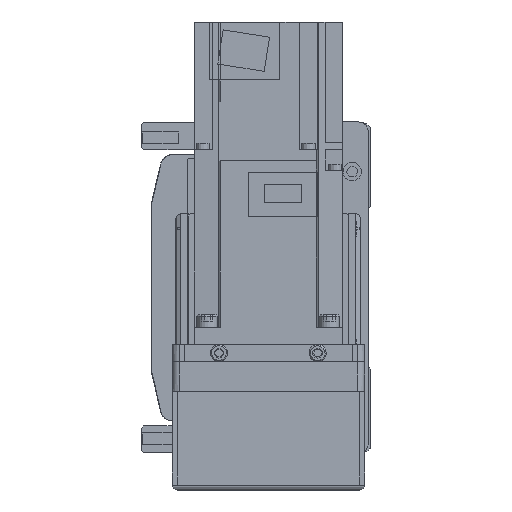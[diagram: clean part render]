
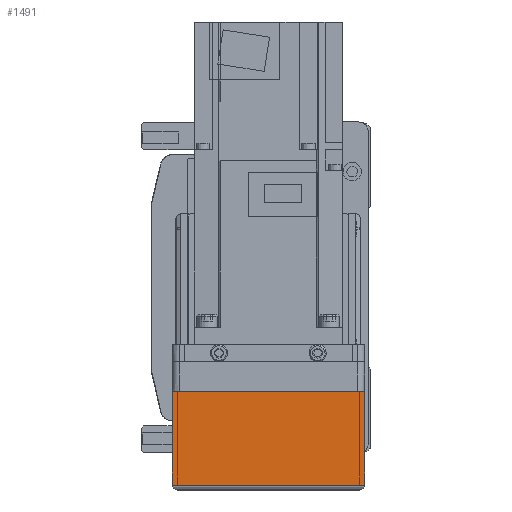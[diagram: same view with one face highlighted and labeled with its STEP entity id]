
A CAD part, left-side view. The second image highlights one B-rep face of the part: STEP entity #1491.
In plain terms, the highlighted planar face has unit normal (-1, 0, 0).
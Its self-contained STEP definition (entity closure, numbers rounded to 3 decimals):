
#1491 = ADVANCED_FACE( '', ( #3990 ), #3991, .F. );
#3990 = FACE_OUTER_BOUND( '', #7928, .T. );
#3991 = PLANE( '', #7929 );
#7928 = EDGE_LOOP( '', ( #12222, #12223, #12224, #12225 ) );
#7929 = AXIS2_PLACEMENT_3D( '', #12226, #12227, #12228 );
#12222 = ORIENTED_EDGE( '', *, *, #22185, .F. );
#12223 = ORIENTED_EDGE( '', *, *, #22186, .F. );
#12224 = ORIENTED_EDGE( '', *, *, #22187, .T. );
#12225 = ORIENTED_EDGE( '', *, *, #22188, .F. );
#12226 = CARTESIAN_POINT( '', ( -158., 36., 7. ) );
#12227 = DIRECTION( '', ( 1., 0., 0. ) );
#12228 = DIRECTION( '', ( 0., 0., -1. ) );
#22185 = EDGE_CURVE( '', #26425, #26426, #26427, .T. );
#22186 = EDGE_CURVE( '', #26428, #26425, #26429, .T. );
#22187 = EDGE_CURVE( '', #26428, #26430, #26431, .T. );
#22188 = EDGE_CURVE( '', #26426, #26430, #26432, .T. );
#26425 = VERTEX_POINT( '', #32616 );
#26426 = VERTEX_POINT( '', #32617 );
#26427 = LINE( '', #32618, #32619 );
#26428 = VERTEX_POINT( '', #32620 );
#26429 = LINE( '', #32621, #32622 );
#26430 = VERTEX_POINT( '', #32623 );
#26431 = LINE( '', #32624, #32625 );
#26432 = LINE( '', #32626, #32627 );
#32616 = CARTESIAN_POINT( '', ( -158., 39., -12.1 ) );
#32617 = CARTESIAN_POINT( '', ( -158., -39., -12.1 ) );
#32618 = CARTESIAN_POINT( '', ( -158., 50., -12.1 ) );
#32619 = VECTOR( '', #41563, 1000. );
#32620 = CARTESIAN_POINT( '', ( -158., 39., -50. ) );
#32621 = CARTESIAN_POINT( '', ( -158., 39., -50. ) );
#32622 = VECTOR( '', #41564, 1000. );
#32623 = CARTESIAN_POINT( '', ( -158., -39., -50. ) );
#32624 = CARTESIAN_POINT( '', ( -158., 40., -50. ) );
#32625 = VECTOR( '', #41565, 1000. );
#32626 = CARTESIAN_POINT( '', ( -158., -39., -12.1 ) );
#32627 = VECTOR( '', #41566, 1000. );
#41563 = DIRECTION( '', ( 0., -1., 0. ) );
#41564 = DIRECTION( '', ( 0., 0., 1. ) );
#41565 = DIRECTION( '', ( 0., -1., 0. ) );
#41566 = DIRECTION( '', ( 0., 0., -1. ) );
